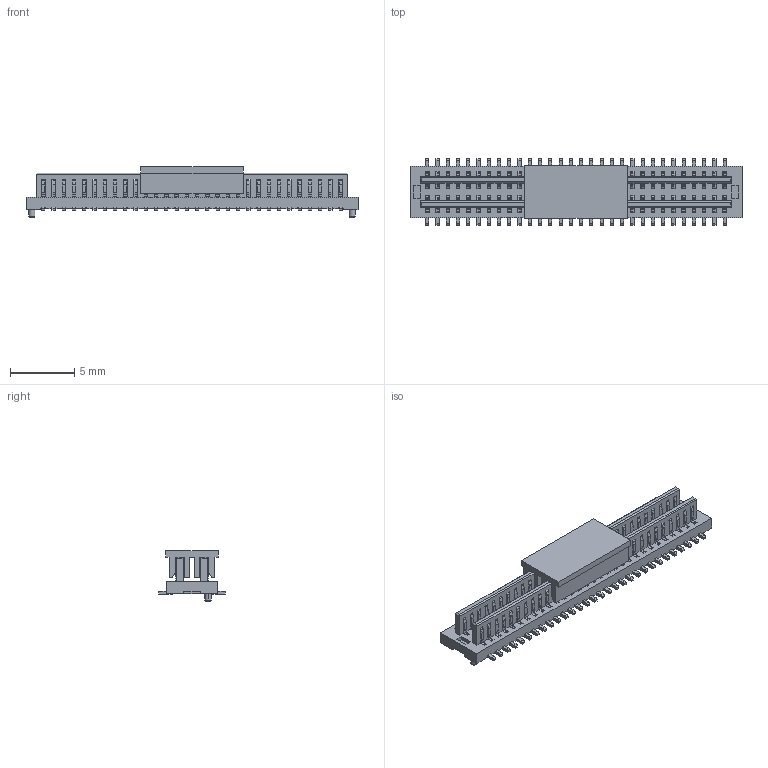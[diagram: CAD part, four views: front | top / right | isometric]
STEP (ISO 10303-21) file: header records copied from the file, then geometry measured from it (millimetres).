
FILE_DESCRIPTION (( 'STEP AP203' ), '1' );
FILE_NAME ('HC-PBB08-2-60-M-H1.0-G1-R-P-04(BTB0.8 双槽 公座 立贴 带柱 编带+盖)-HCTL.STEP', '2025-12-10T07:41:22', ( '' ), ( '' ), 'SwSTEP 2.0', 'SolidWorks 2025', '' );
FILE_SCHEMA (( 'CONFIG_CONTROL_DESIGN' ));
Length unit declared in the file: millimetre
Products named in the file (1): HC-PBB08-2-60-M-H1.0-G1-R-P-04(BTB0.8 双槽 公座 立贴 带柱 编带+盖)-HCTL
Bounding box: 25.9 x 5.2 x 3.95 mm (x, y, z)
Volume: 179 mm3; surface area: 1197.8 mm2
Topology: 2 solids, 2 shells, 3500 faces, 11238 edges, 7328 vertices
Faces by surface type: plane 2292, cylinder 1204, torus 4
Entity records: 124305 total; most frequent: CARTESIAN_POINT 22895, ORIENTED_EDGE 22476, DIRECTION 20416, EDGE_CURVE 11238, VECTOR 8582, LINE 8582, VERTEX_POINT 7328, AXIS2_PLACEMENT_3D 5917
